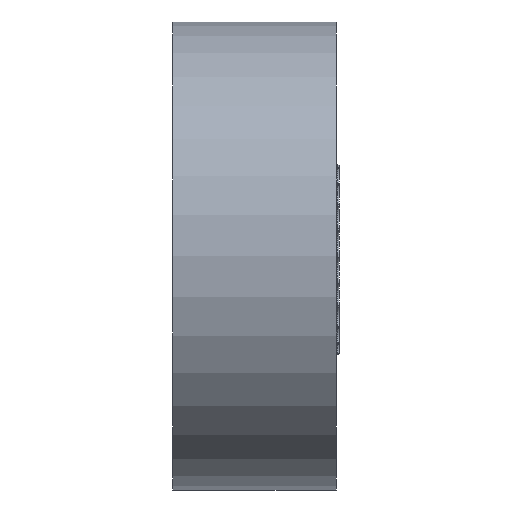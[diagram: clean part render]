
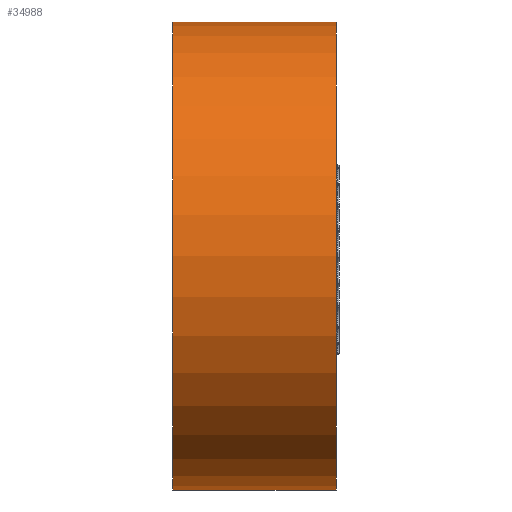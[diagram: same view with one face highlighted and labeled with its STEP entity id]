
A CAD part, left-side view. The second image highlights one B-rep face of the part: STEP entity #34988.
In plain terms, the highlighted cylindrical face has radius 100 mm (diameter 200 mm), a partial arc.
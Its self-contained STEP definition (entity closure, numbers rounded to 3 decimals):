
#1255 = DIRECTION ( 'NONE',  ( 0., -1., 0. ) ) ;
#1455 = FACE_OUTER_BOUND ( 'NONE', #42770, .T. ) ;
#1699 = CARTESIAN_POINT ( 'NONE',  ( 0., 0., 100. ) ) ;
#2069 = EDGE_CURVE ( 'NONE', #37134, #3995, #40553, .T. ) ;
#2096 = ORIENTED_EDGE ( 'NONE', *, *, #2069, .F. ) ;
#3811 = CARTESIAN_POINT ( 'NONE',  ( 0., 1.306, 100. ) ) ;
#3935 = VERTEX_POINT ( 'NONE', #40517 ) ;
#3995 = VERTEX_POINT ( 'NONE', #41610 ) ;
#4343 = LINE ( 'NONE', #1699, #41116 ) ;
#4954 = DIRECTION ( 'NONE',  ( 0., -1., 0. ) ) ;
#6530 = CARTESIAN_POINT ( 'NONE',  ( 0., 1.306, 0. ) ) ;
#7218 = LINE ( 'NONE', #11129, #26334 ) ;
#7774 = EDGE_CURVE ( 'NONE', #21040, #3995, #7218, .T. ) ;
#9193 = ORIENTED_EDGE ( 'NONE', *, *, #20532, .F. ) ;
#11129 = CARTESIAN_POINT ( 'NONE',  ( 0., 0., -100. ) ) ;
#12618 = EDGE_CURVE ( 'NONE', #3935, #21040, #30625, .T. ) ;
#15006 = CYLINDRICAL_SURFACE ( 'NONE', #21572, 100. ) ;
#15545 = CARTESIAN_POINT ( 'NONE',  ( 0., 71.054, -100. ) ) ;
#18104 = DIRECTION ( 'NONE',  ( 0., -1., 0. ) ) ;
#18322 = CARTESIAN_POINT ( 'NONE',  ( 0., 71.054, 0. ) ) ;
#19857 = DIRECTION ( 'NONE',  ( 0., 0., -1. ) ) ;
#20532 = EDGE_CURVE ( 'NONE', #3935, #37134, #4343, .T. ) ;
#21040 = VERTEX_POINT ( 'NONE', #15545 ) ;
#21572 = AXIS2_PLACEMENT_3D ( 'NONE', #34716, #4954, #21761 ) ;
#21603 = AXIS2_PLACEMENT_3D ( 'NONE', #6530, #40468, #19857 ) ;
#21761 = DIRECTION ( 'NONE',  ( 0., 0., -1. ) ) ;
#26334 = VECTOR ( 'NONE', #27759, 1000. ) ;
#27759 = DIRECTION ( 'NONE',  ( 0., -1., 0. ) ) ;
#30625 = CIRCLE ( 'NONE', #32724, 100. ) ;
#31454 = DIRECTION ( 'NONE',  ( 0., 0., -1. ) ) ;
#32724 = AXIS2_PLACEMENT_3D ( 'NONE', #18322, #18104, #31454 ) ;
#34716 = CARTESIAN_POINT ( 'NONE',  ( 0., 0., 0. ) ) ;
#34988 = ADVANCED_FACE ( 'NONE', ( #1455 ), #15006, .T. ) ;
#37134 = VERTEX_POINT ( 'NONE', #3811 ) ;
#39128 = ORIENTED_EDGE ( 'NONE', *, *, #12618, .T. ) ;
#40468 = DIRECTION ( 'NONE',  ( 0., -1., 0. ) ) ;
#40517 = CARTESIAN_POINT ( 'NONE',  ( 0., 71.054, 100. ) ) ;
#40553 = CIRCLE ( 'NONE', #21603, 100. ) ;
#41116 = VECTOR ( 'NONE', #1255, 1000. ) ;
#41224 = ORIENTED_EDGE ( 'NONE', *, *, #7774, .T. ) ;
#41610 = CARTESIAN_POINT ( 'NONE',  ( 0., 1.306, -100. ) ) ;
#42770 = EDGE_LOOP ( 'NONE', ( #9193, #39128, #41224, #2096 ) ) ;
